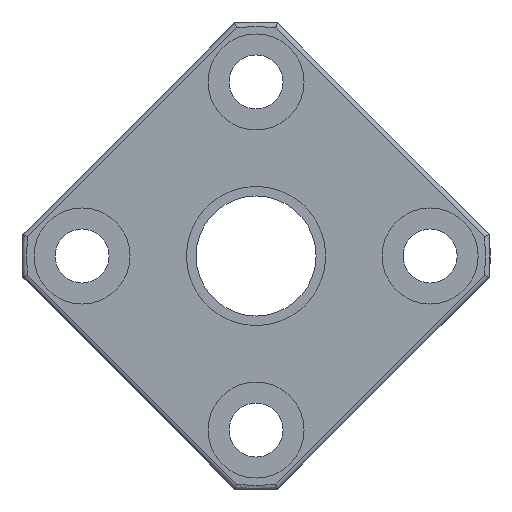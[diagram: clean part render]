
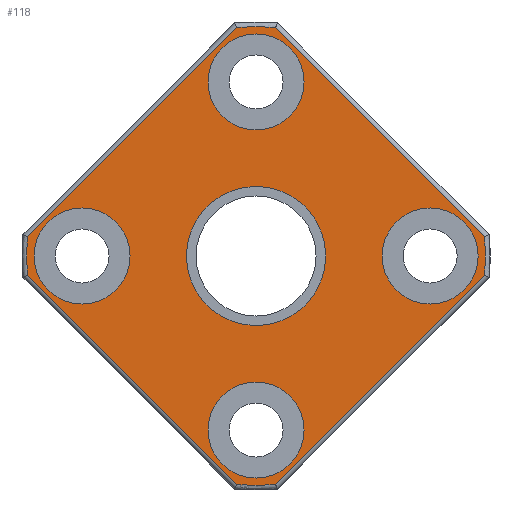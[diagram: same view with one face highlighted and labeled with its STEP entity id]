
A CAD part, left-side view. The second image highlights one B-rep face of the part: STEP entity #118.
In plain terms, the highlighted planar face has unit normal (-1, 0, 0).
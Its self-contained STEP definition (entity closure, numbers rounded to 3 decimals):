
#118 = ADVANCED_FACE( '', ( #264, #265, #266, #267, #268, #269 ), #270, .T. );
#264 = FACE_BOUND( '', #447, .T. );
#265 = FACE_BOUND( '', #448, .T. );
#266 = FACE_BOUND( '', #449, .T. );
#267 = FACE_BOUND( '', #450, .T. );
#268 = FACE_BOUND( '', #451, .T. );
#269 = FACE_OUTER_BOUND( '', #452, .T. );
#270 = PLANE( '', #453 );
#447 = EDGE_LOOP( '', ( #711 ) );
#448 = EDGE_LOOP( '', ( #712 ) );
#449 = EDGE_LOOP( '', ( #713 ) );
#450 = EDGE_LOOP( '', ( #714 ) );
#451 = EDGE_LOOP( '', ( #715 ) );
#452 = EDGE_LOOP( '', ( #716, #717, #718, #719, #720, #721, #722, #723, #724 ) );
#453 = AXIS2_PLACEMENT_3D( '', #725, #726, #727 );
#711 = ORIENTED_EDGE( '', *, *, #994, .T. );
#712 = ORIENTED_EDGE( '', *, *, #995, .T. );
#713 = ORIENTED_EDGE( '', *, *, #996, .T. );
#714 = ORIENTED_EDGE( '', *, *, #954, .T. );
#715 = ORIENTED_EDGE( '', *, *, #997, .F. );
#716 = ORIENTED_EDGE( '', *, *, #982, .T. );
#717 = ORIENTED_EDGE( '', *, *, #988, .T. );
#718 = ORIENTED_EDGE( '', *, *, #911, .T. );
#719 = ORIENTED_EDGE( '', *, *, #938, .T. );
#720 = ORIENTED_EDGE( '', *, *, #998, .T. );
#721 = ORIENTED_EDGE( '', *, *, #999, .T. );
#722 = ORIENTED_EDGE( '', *, *, #1000, .T. );
#723 = ORIENTED_EDGE( '', *, *, #1001, .T. );
#724 = ORIENTED_EDGE( '', *, *, #1002, .T. );
#725 = CARTESIAN_POINT( '', ( 0., 12.55, 0. ) );
#726 = DIRECTION( '', ( -1., 0., 0. ) );
#727 = DIRECTION( '', ( 0., 1., 0. ) );
#911 = EDGE_CURVE( '', #1046, #1047, #1048, .T. );
#938 = EDGE_CURVE( '', #1047, #1091, #1093, .T. );
#954 = EDGE_CURVE( '', #1117, #1117, #1118, .T. );
#982 = EDGE_CURVE( '', #1159, #1157, #1160, .T. );
#988 = EDGE_CURVE( '', #1157, #1046, #1168, .T. );
#994 = EDGE_CURVE( '', #1175, #1175, #1176, .T. );
#995 = EDGE_CURVE( '', #1177, #1177, #1178, .T. );
#996 = EDGE_CURVE( '', #1179, #1179, #1180, .T. );
#997 = EDGE_CURVE( '', #1181, #1181, #1182, .T. );
#998 = EDGE_CURVE( '', #1091, #1183, #1184, .T. );
#999 = EDGE_CURVE( '', #1183, #1185, #1186, .T. );
#1000 = EDGE_CURVE( '', #1185, #1187, #1188, .T. );
#1001 = EDGE_CURVE( '', #1187, #1189, #1190, .T. );
#1002 = EDGE_CURVE( '', #1189, #1159, #1191, .T. );
#1046 = VERTEX_POINT( '', #1244 );
#1047 = VERTEX_POINT( '', #1245 );
#1048 = CIRCLE( '', #1246, 19.1 );
#1091 = VERTEX_POINT( '', #1321 );
#1093 = LINE( '', #1328, #1329 );
#1117 = VERTEX_POINT( '', #1359 );
#1118 = CIRCLE( '', #1360, 4. );
#1157 = VERTEX_POINT( '', #1414 );
#1159 = VERTEX_POINT( '', #1421 );
#1160 = CIRCLE( '', #1422, 19.1 );
#1168 = LINE( '', #1435, #1436 );
#1175 = VERTEX_POINT( '', #1448 );
#1176 = CIRCLE( '', #1449, 4. );
#1177 = VERTEX_POINT( '', #1450 );
#1178 = CIRCLE( '', #1451, 4. );
#1179 = VERTEX_POINT( '', #1452 );
#1180 = CIRCLE( '', #1453, 4. );
#1181 = VERTEX_POINT( '', #1454 );
#1182 = CIRCLE( '', #1455, 5.8 );
#1183 = VERTEX_POINT( '', #1456 );
#1184 = CIRCLE( '', #1457, 19.1 );
#1185 = VERTEX_POINT( '', #1458 );
#1186 = LINE( '', #1459, #1460 );
#1187 = VERTEX_POINT( '', #1461 );
#1188 = CIRCLE( '', #1462, 19.1 );
#1189 = VERTEX_POINT( '', #1463 );
#1190 = CIRCLE( '', #1464, 19.1 );
#1191 = LINE( '', #1465, #1466 );
#1244 = CARTESIAN_POINT( '', ( 0., -19.032, -1.616 ) );
#1245 = CARTESIAN_POINT( '', ( 0., -19.032, 1.616 ) );
#1246 = AXIS2_PLACEMENT_3D( '', #1545, #1546, #1547 );
#1321 = CARTESIAN_POINT( '', ( 0., -1.616, 19.032 ) );
#1328 = CARTESIAN_POINT( '', ( 0., -4.049, 16.599 ) );
#1329 = VECTOR( '', #1576, 1000. );
#1359 = CARTESIAN_POINT( '', ( 0., 18.5, 0. ) );
#1360 = AXIS2_PLACEMENT_3D( '', #1595, #1596, #1597 );
#1414 = CARTESIAN_POINT( '', ( 0., -1.616, -19.032 ) );
#1421 = CARTESIAN_POINT( '', ( 0., 1.616, -19.032 ) );
#1422 = AXIS2_PLACEMENT_3D( '', #1636, #1637, #1638 );
#1435 = CARTESIAN_POINT( '', ( 0., -4.049, -16.599 ) );
#1436 = VECTOR( '', #1645, 1000. );
#1448 = CARTESIAN_POINT( '', ( 0., 0., -18.5 ) );
#1449 = AXIS2_PLACEMENT_3D( '', #1652, #1653, #1654 );
#1450 = CARTESIAN_POINT( '', ( 0., 0., 18.5 ) );
#1451 = AXIS2_PLACEMENT_3D( '', #1655, #1656, #1657 );
#1452 = CARTESIAN_POINT( '', ( 0., -18.5, 0. ) );
#1453 = AXIS2_PLACEMENT_3D( '', #1658, #1659, #1660 );
#1454 = CARTESIAN_POINT( '', ( 0., 5.8, 0. ) );
#1455 = AXIS2_PLACEMENT_3D( '', #1661, #1662, #1663 );
#1456 = CARTESIAN_POINT( '', ( 0., 1.616, 19.032 ) );
#1457 = AXIS2_PLACEMENT_3D( '', #1664, #1665, #1666 );
#1458 = CARTESIAN_POINT( '', ( 0., 19.032, 1.616 ) );
#1459 = CARTESIAN_POINT( '', ( 0., 16.599, 4.049 ) );
#1460 = VECTOR( '', #1667, 1000. );
#1461 = CARTESIAN_POINT( '', ( 0., 19.1, 0. ) );
#1462 = AXIS2_PLACEMENT_3D( '', #1668, #1669, #1670 );
#1463 = CARTESIAN_POINT( '', ( 0., 19.032, -1.616 ) );
#1464 = AXIS2_PLACEMENT_3D( '', #1671, #1672, #1673 );
#1465 = CARTESIAN_POINT( '', ( 0., 16.599, -4.049 ) );
#1466 = VECTOR( '', #1674, 1000. );
#1545 = CARTESIAN_POINT( '', ( 0., 0., 0. ) );
#1546 = DIRECTION( '', ( -1., 0., 0. ) );
#1547 = DIRECTION( '', ( 0., 0., 1. ) );
#1576 = DIRECTION( '', ( 0., 0.707, 0.707 ) );
#1595 = CARTESIAN_POINT( '', ( 0., 14.5, 0. ) );
#1596 = DIRECTION( '', ( 1., 0., 0. ) );
#1597 = DIRECTION( '', ( 0., 1., 0. ) );
#1636 = CARTESIAN_POINT( '', ( 0., 0., 0. ) );
#1637 = DIRECTION( '', ( -1., 0., 0. ) );
#1638 = DIRECTION( '', ( 0., 0., 1. ) );
#1645 = DIRECTION( '', ( 0., -0.707, 0.707 ) );
#1652 = CARTESIAN_POINT( '', ( 0., 0., -14.5 ) );
#1653 = DIRECTION( '', ( 1., 0., 0. ) );
#1654 = DIRECTION( '', ( 0., 0., -1. ) );
#1655 = CARTESIAN_POINT( '', ( 0., 0., 14.5 ) );
#1656 = DIRECTION( '', ( 1., 0., 0. ) );
#1657 = DIRECTION( '', ( 0., 0., 1. ) );
#1658 = CARTESIAN_POINT( '', ( 0., -14.5, 0. ) );
#1659 = DIRECTION( '', ( 1., 0., 0. ) );
#1660 = DIRECTION( '', ( 0., -1., 0. ) );
#1661 = CARTESIAN_POINT( '', ( 0., 0., 0. ) );
#1662 = DIRECTION( '', ( -1., 0., 0. ) );
#1663 = DIRECTION( '', ( 0., 1., 0. ) );
#1664 = CARTESIAN_POINT( '', ( 0., 0., 0. ) );
#1665 = DIRECTION( '', ( -1., 0., 0. ) );
#1666 = DIRECTION( '', ( 0., 0., 1. ) );
#1667 = DIRECTION( '', ( 0., 0.707, -0.707 ) );
#1668 = CARTESIAN_POINT( '', ( 0., 0., 0. ) );
#1669 = DIRECTION( '', ( -1., 0., 0. ) );
#1670 = DIRECTION( '', ( 0., 0., 1. ) );
#1671 = CARTESIAN_POINT( '', ( 0., 0., 0. ) );
#1672 = DIRECTION( '', ( -1., 0., 0. ) );
#1673 = DIRECTION( '', ( 0., 0., 1. ) );
#1674 = DIRECTION( '', ( 0., -0.707, -0.707 ) );
